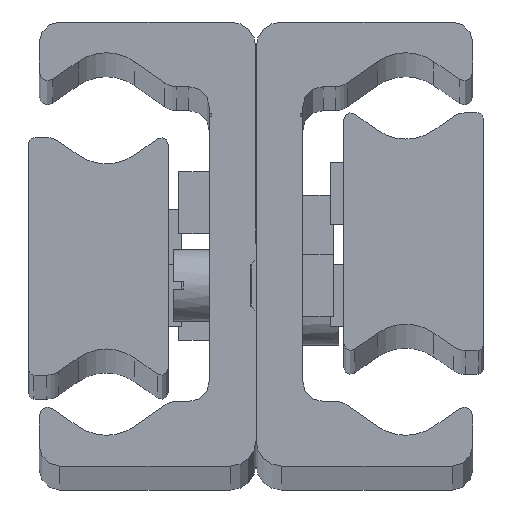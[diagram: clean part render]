
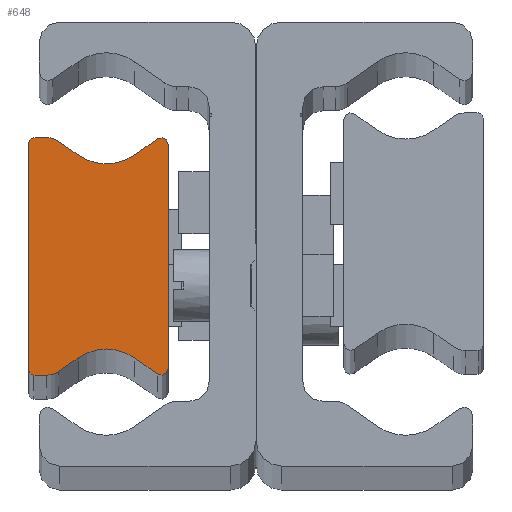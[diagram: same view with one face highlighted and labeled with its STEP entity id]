
A CAD part, top view. The second image highlights one B-rep face of the part: STEP entity #648.
In plain terms, the highlighted planar face has unit normal (0, 0, 1) as drawn and (0, 0, -1) by its records, which use the part's own axes.
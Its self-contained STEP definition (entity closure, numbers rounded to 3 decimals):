
#648 = ADVANCED_FACE( '', ( #1438 ), #1439, .F. );
#1438 = FACE_OUTER_BOUND( '', #2252, .T. );
#1439 = PLANE( '', #2253 );
#2252 = EDGE_LOOP( '', ( #3733, #3734, #3735, #3736, #3737, #3738, #3739, #3740, #3741, #3742, #3743, #3744, #3745, #3746, #3747, #3748 ) );
#2253 = AXIS2_PLACEMENT_3D( '', #3749, #3750, #3751 );
#3733 = ORIENTED_EDGE( '', *, *, #4313, .F. );
#3734 = ORIENTED_EDGE( '', *, *, #4151, .F. );
#3735 = ORIENTED_EDGE( '', *, *, #4246, .F. );
#3736 = ORIENTED_EDGE( '', *, *, #4375, .F. );
#3737 = ORIENTED_EDGE( '', *, *, #4254, .F. );
#3738 = ORIENTED_EDGE( '', *, *, #4064, .T. );
#3739 = ORIENTED_EDGE( '', *, *, #4222, .F. );
#3740 = ORIENTED_EDGE( '', *, *, #4369, .F. );
#3741 = ORIENTED_EDGE( '', *, *, #4174, .F. );
#3742 = ORIENTED_EDGE( '', *, *, #4367, .F. );
#3743 = ORIENTED_EDGE( '', *, *, #4458, .F. );
#3744 = ORIENTED_EDGE( '', *, *, #4328, .T. );
#3745 = ORIENTED_EDGE( '', *, *, #4422, .F. );
#3746 = ORIENTED_EDGE( '', *, *, #4506, .F. );
#3747 = ORIENTED_EDGE( '', *, *, #4448, .F. );
#3748 = ORIENTED_EDGE( '', *, *, #4191, .F. );
#3749 = CARTESIAN_POINT( '', ( 0.5, -11., -1330. ) );
#3750 = DIRECTION( '', ( 0., 0., 1. ) );
#3751 = DIRECTION( '', ( 1., 0., 0. ) );
#4064 = EDGE_CURVE( '', #4731, #4729, #4732, .T. );
#4151 = EDGE_CURVE( '', #4873, #4875, #4876, .T. );
#4174 = EDGE_CURVE( '', #4917, #4919, #4920, .T. );
#4191 = EDGE_CURVE( '', #4946, #4948, #4949, .T. );
#4222 = EDGE_CURVE( '', #4995, #4729, #4997, .T. );
#4246 = EDGE_CURVE( '', #5031, #4873, #5033, .T. );
#4254 = EDGE_CURVE( '', #4731, #5043, #5044, .T. );
#4313 = EDGE_CURVE( '', #4875, #4946, #5137, .T. );
#4328 = EDGE_CURVE( '', #5160, #5158, #5161, .T. );
#4367 = EDGE_CURVE( '', #5217, #4917, #5219, .T. );
#4369 = EDGE_CURVE( '', #4919, #4995, #5221, .T. );
#4375 = EDGE_CURVE( '', #5043, #5031, #5227, .T. );
#4422 = EDGE_CURVE( '', #5292, #5158, #5294, .T. );
#4448 = EDGE_CURVE( '', #4948, #5329, #5330, .T. );
#4458 = EDGE_CURVE( '', #5160, #5217, #5341, .T. );
#4506 = EDGE_CURVE( '', #5329, #5292, #5405, .T. );
#4729 = VERTEX_POINT( '', #5669 );
#4731 = VERTEX_POINT( '', #5672 );
#4732 = CIRCLE( '', #5673, 4.763 );
#4873 = VERTEX_POINT( '', #5845 );
#4875 = VERTEX_POINT( '', #5848 );
#4876 = CIRCLE( '', #5849, 0.5 );
#4917 = VERTEX_POINT( '', #5895 );
#4919 = VERTEX_POINT( '', #5898 );
#4920 = LINE( '', #5899, #5900 );
#4946 = VERTEX_POINT( '', #5937 );
#4948 = VERTEX_POINT( '', #5940 );
#4949 = CIRCLE( '', #5941, 0.5 );
#4995 = VERTEX_POINT( '', #5997 );
#4997 = LINE( '', #6000, #6001 );
#5031 = VERTEX_POINT( '', #6045 );
#5033 = LINE( '', #6048, #6049 );
#5043 = VERTEX_POINT( '', #6062 );
#5044 = LINE( '', #6063, #6064 );
#5137 = LINE( '', #6172, #6173 );
#5158 = VERTEX_POINT( '', #6198 );
#5160 = VERTEX_POINT( '', #6201 );
#5161 = CIRCLE( '', #6202, 4.763 );
#5217 = VERTEX_POINT( '', #6272 );
#5219 = CIRCLE( '', #6275, 0.668 );
#5221 = CIRCLE( '', #6277, 0.668 );
#5227 = CIRCLE( '', #6283, 2. );
#5292 = VERTEX_POINT( '', #6361 );
#5294 = LINE( '', #6364, #6365 );
#5329 = VERTEX_POINT( '', #6405 );
#5330 = LINE( '', #6406, #6407 );
#5341 = LINE( '', #6421, #6422 );
#5405 = CIRCLE( '', #6504, 2. );
#5669 = CARTESIAN_POINT( '', ( 10.232, 9.827, -1330. ) );
#5672 = CARTESIAN_POINT( '', ( 4.768, 9.827, -1330. ) );
#5673 = AXIS2_PLACEMENT_3D( '', #6771, #6772, #6773 );
#5845 = CARTESIAN_POINT( '', ( 0.5, 11.5, -1330. ) );
#5848 = CARTESIAN_POINT( '', ( 0., 11., -1330. ) );
#5849 = AXIS2_PLACEMENT_3D( '', #6896, #6897, #6898 );
#5895 = CARTESIAN_POINT( '', ( 13.5, -10.832, -1330. ) );
#5898 = CARTESIAN_POINT( '', ( 13.5, 10.832, -1330. ) );
#5899 = CARTESIAN_POINT( '', ( 13.5, -10.832, -1330. ) );
#5900 = VECTOR( '', #6950, 1000. );
#5937 = CARTESIAN_POINT( '', ( 0., -11., -1330. ) );
#5940 = CARTESIAN_POINT( '', ( 0.5, -11.5, -1330. ) );
#5941 = AXIS2_PLACEMENT_3D( '', #6966, #6967, #6968 );
#5997 = CARTESIAN_POINT( '', ( 12.449, 11.379, -1330. ) );
#6000 = CARTESIAN_POINT( '', ( 12.449, 11.379, -1330. ) );
#6001 = VECTOR( '', #7013, 1000. );
#6045 = CARTESIAN_POINT( '', ( 1.748, 11.5, -1330. ) );
#6048 = CARTESIAN_POINT( '', ( 1.748, 11.5, -1330. ) );
#6049 = VECTOR( '', #7040, 1000. );
#6062 = CARTESIAN_POINT( '', ( 2.895, 11.138, -1330. ) );
#6063 = CARTESIAN_POINT( '', ( 4.768, 9.827, -1330. ) );
#6064 = VECTOR( '', #7047, 1000. );
#6172 = CARTESIAN_POINT( '', ( 0., 11., -1330. ) );
#6173 = VECTOR( '', #7144, 1000. );
#6198 = CARTESIAN_POINT( '', ( 4.768, -9.827, -1330. ) );
#6201 = CARTESIAN_POINT( '', ( 10.232, -9.827, -1330. ) );
#6202 = AXIS2_PLACEMENT_3D( '', #7162, #7163, #7164 );
#6272 = CARTESIAN_POINT( '', ( 12.449, -11.379, -1330. ) );
#6275 = AXIS2_PLACEMENT_3D( '', #7210, #7211, #7212 );
#6277 = AXIS2_PLACEMENT_3D( '', #7213, #7214, #7215 );
#6283 = AXIS2_PLACEMENT_3D( '', #7219, #7220, #7221 );
#6361 = CARTESIAN_POINT( '', ( 2.895, -11.138, -1330. ) );
#6364 = CARTESIAN_POINT( '', ( 2.895, -11.138, -1330. ) );
#6365 = VECTOR( '', #7275, 1000. );
#6405 = CARTESIAN_POINT( '', ( 1.748, -11.5, -1330. ) );
#6406 = CARTESIAN_POINT( '', ( 0.5, -11.5, -1330. ) );
#6407 = VECTOR( '', #7305, 1000. );
#6421 = CARTESIAN_POINT( '', ( 10.232, -9.827, -1330. ) );
#6422 = VECTOR( '', #7312, 1000. );
#6504 = AXIS2_PLACEMENT_3D( '', #7361, #7362, #7363 );
#6771 = CARTESIAN_POINT( '', ( 7.5, 13.729, -1330. ) );
#6772 = DIRECTION( '', ( 0., 0., 1. ) );
#6773 = DIRECTION( '', ( 1., 0., 0. ) );
#6896 = CARTESIAN_POINT( '', ( 0.5, 11., -1330. ) );
#6897 = DIRECTION( '', ( 0., 0., 1. ) );
#6898 = DIRECTION( '', ( 1., 0., 0. ) );
#6950 = DIRECTION( '', ( 0., 1., 0. ) );
#6966 = CARTESIAN_POINT( '', ( 0.5, -11., -1330. ) );
#6967 = DIRECTION( '', ( 0., 0., 1. ) );
#6968 = DIRECTION( '', ( 1., 0., 0. ) );
#7013 = DIRECTION( '', ( -0.819, -0.574, 0. ) );
#7040 = DIRECTION( '', ( -1., 0., 0. ) );
#7047 = DIRECTION( '', ( -0.819, 0.574, 0. ) );
#7144 = DIRECTION( '', ( 0., -1., 0. ) );
#7162 = CARTESIAN_POINT( '', ( 7.5, -13.729, -1330. ) );
#7163 = DIRECTION( '', ( 0., 0., 1. ) );
#7164 = DIRECTION( '', ( 1., 0., 0. ) );
#7210 = CARTESIAN_POINT( '', ( 12.832, -10.832, -1330. ) );
#7211 = DIRECTION( '', ( 0., 0., 1. ) );
#7212 = DIRECTION( '', ( 1., 0., 0. ) );
#7213 = CARTESIAN_POINT( '', ( 12.832, 10.832, -1330. ) );
#7214 = DIRECTION( '', ( 0., 0., 1. ) );
#7215 = DIRECTION( '', ( 1., 0., 0. ) );
#7219 = CARTESIAN_POINT( '', ( 1.748, 9.5, -1330. ) );
#7220 = DIRECTION( '', ( 0., 0., 1. ) );
#7221 = DIRECTION( '', ( 1., 0., 0. ) );
#7275 = DIRECTION( '', ( 0.819, 0.574, 0. ) );
#7305 = DIRECTION( '', ( 1., 0., 0. ) );
#7312 = DIRECTION( '', ( 0.819, -0.574, 0. ) );
#7361 = CARTESIAN_POINT( '', ( 1.748, -9.5, -1330. ) );
#7362 = DIRECTION( '', ( 0., 0., 1. ) );
#7363 = DIRECTION( '', ( 1., 0., 0. ) );
